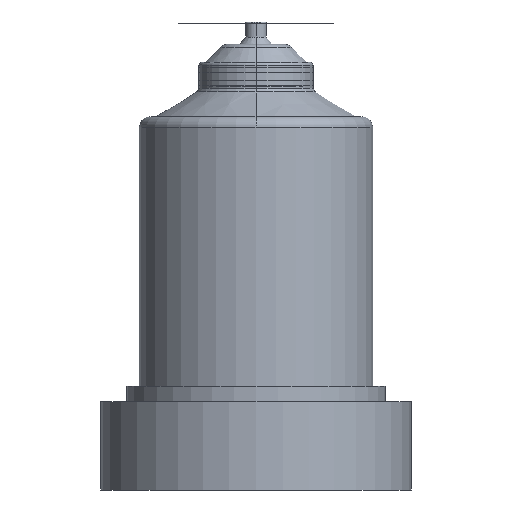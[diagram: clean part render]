
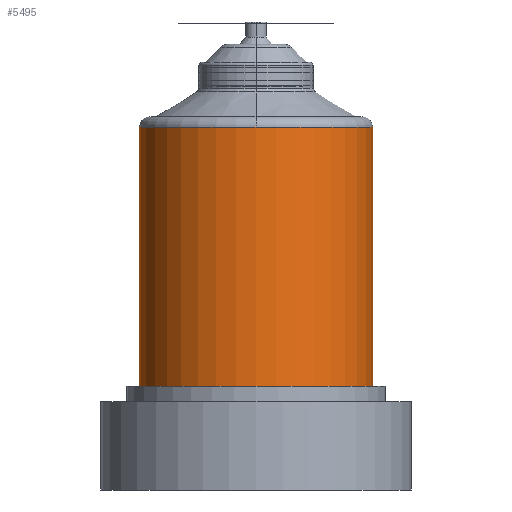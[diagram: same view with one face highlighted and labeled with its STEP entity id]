
A CAD part, front view. The second image highlights one B-rep face of the part: STEP entity #5495.
In plain terms, the highlighted cylindrical face has radius 22.5 mm (diameter 45 mm), a partial arc.
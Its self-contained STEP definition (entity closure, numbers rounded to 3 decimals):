
#19 = CARTESIAN_POINT ( 'NONE',  ( 0., 0., 85. ) ) ;
#164 = DIRECTION ( 'NONE',  ( 0., 1., 0. ) ) ;
#496 = CARTESIAN_POINT ( 'NONE',  ( -22.5, 0., 35. ) ) ;
#762 = DIRECTION ( 'NONE',  ( 1., 0., 0. ) ) ;
#1220 = ORIENTED_EDGE ( 'NONE', *, *, #7271, .T. ) ;
#1384 = DIRECTION ( 'NONE',  ( 0., 1., 0. ) ) ;
#1545 = EDGE_CURVE ( 'NONE', #6859, #8643, #10176, .T. ) ;
#1580 = VECTOR ( 'NONE', #2806, 1000. ) ;
#1685 = AXIS2_PLACEMENT_3D ( 'NONE', #19, #8606, #164 ) ;
#1686 = EDGE_CURVE ( 'NONE', #5758, #5228, #1859, .T. ) ;
#1859 = LINE ( 'NONE', #10824, #10565 ) ;
#2240 = CARTESIAN_POINT ( 'NONE',  ( 0., 0., 78. ) ) ;
#2535 = ORIENTED_EDGE ( 'NONE', *, *, #1686, .F. ) ;
#2614 = CARTESIAN_POINT ( 'NONE',  ( 22.5, 0., 85. ) ) ;
#2806 = DIRECTION ( 'NONE',  ( 0., 0., -1. ) ) ;
#3198 = DIRECTION ( 'NONE',  ( 0., 0., -1. ) ) ;
#3374 = EDGE_LOOP ( 'NONE', ( #2535, #1220, #4454, #10913, #8363 ) ) ;
#3809 = DIRECTION ( 'NONE',  ( 0., 0., -1. ) ) ;
#4121 = LINE ( 'NONE', #8646, #1580 ) ;
#4454 = ORIENTED_EDGE ( 'NONE', *, *, #1545, .T. ) ;
#4495 = AXIS2_PLACEMENT_3D ( 'NONE', #2240, #3809, #8939 ) ;
#5181 = CARTESIAN_POINT ( 'NONE',  ( 0., -22.5, 85. ) ) ;
#5228 = VERTEX_POINT ( 'NONE', #6096 ) ;
#5495 = ADVANCED_FACE ( 'NONE', ( #7646 ), #9086, .T. ) ;
#5758 = VERTEX_POINT ( 'NONE', #2614 ) ;
#5863 = CARTESIAN_POINT ( 'NONE',  ( 0., 0., 35. ) ) ;
#6096 = CARTESIAN_POINT ( 'NONE',  ( 22.5, 0., 35. ) ) ;
#6595 = DIRECTION ( 'NONE',  ( 0., 0., -1. ) ) ;
#6648 = DIRECTION ( 'NONE',  ( 0., 0., 1. ) ) ;
#6672 = CIRCLE ( 'NONE', #9158, 22.5 ) ;
#6731 = AXIS2_PLACEMENT_3D ( 'NONE', #10770, #3198, #1384 ) ;
#6859 = VERTEX_POINT ( 'NONE', #5181 ) ;
#7271 = EDGE_CURVE ( 'NONE', #5758, #6859, #8921, .T. ) ;
#7646 = FACE_OUTER_BOUND ( 'NONE', #3374, .T. ) ;
#7650 = EDGE_CURVE ( 'NONE', #8571, #5228, #6672, .T. ) ;
#8363 = ORIENTED_EDGE ( 'NONE', *, *, #7650, .T. ) ;
#8571 = VERTEX_POINT ( 'NONE', #496 ) ;
#8606 = DIRECTION ( 'NONE',  ( 0., 0., -1. ) ) ;
#8643 = VERTEX_POINT ( 'NONE', #9125 ) ;
#8646 = CARTESIAN_POINT ( 'NONE',  ( -22.5, 0., 78. ) ) ;
#8921 = CIRCLE ( 'NONE', #1685, 22.5 ) ;
#8939 = DIRECTION ( 'NONE',  ( -1., 0., 0. ) ) ;
#9086 = CYLINDRICAL_SURFACE ( 'NONE', #4495, 22.5 ) ;
#9125 = CARTESIAN_POINT ( 'NONE',  ( -22.5, 0., 85. ) ) ;
#9158 = AXIS2_PLACEMENT_3D ( 'NONE', #5863, #6648, #762 ) ;
#9659 = EDGE_CURVE ( 'NONE', #8643, #8571, #4121, .T. ) ;
#10176 = CIRCLE ( 'NONE', #6731, 22.5 ) ;
#10565 = VECTOR ( 'NONE', #6595, 1000. ) ;
#10770 = CARTESIAN_POINT ( 'NONE',  ( 0., 0., 85. ) ) ;
#10824 = CARTESIAN_POINT ( 'NONE',  ( 22.5, 0., 78. ) ) ;
#10913 = ORIENTED_EDGE ( 'NONE', *, *, #9659, .T. ) ;
